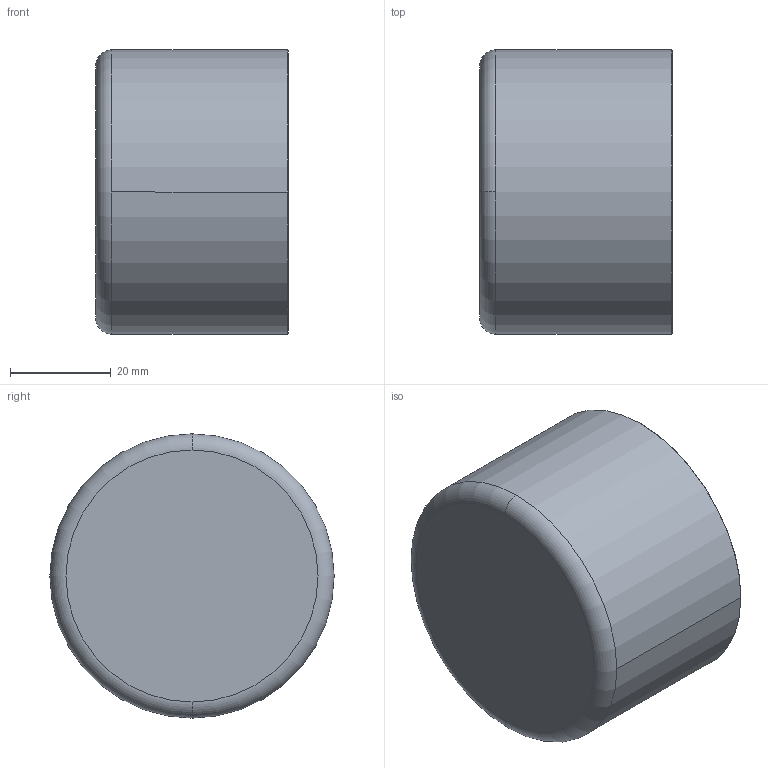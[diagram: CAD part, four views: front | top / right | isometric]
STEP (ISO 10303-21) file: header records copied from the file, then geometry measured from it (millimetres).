
FILE_DESCRIPTION((''),'2;1');
FILE_NAME('C:\sanha_work\5130\f\530154.stp','2005-10-21T18:20:04',('Kris'),(''),'Autodesk Inventor 8','Autodesk Inventor 8','');
FILE_SCHEMA(('AUTOMOTIVE_DESIGN { 1 0 10303 214 1 1 1 1 }'));
Length unit declared in the file: millimetre
Products named in the file (1): 530154
Bounding box: 38.2 x 56.4 x 56.4 mm (x, y, z)
Volume: 10454.4 mm3; surface area: 17606.1 mm2
Topology: 1 solids, 1 shells, 15 faces, 34 edges, 22 vertices
Faces by surface type: torus 4, cylinder 4, cone 4, plane 3
Entity records: 461 total; most frequent: DIRECTION 92, CARTESIAN_POINT 72, ORIENTED_EDGE 68, AXIS2_PLACEMENT_3D 42, EDGE_CURVE 34, CIRCLE 26, VERTEX_POINT 22, EDGE_LOOP 16
